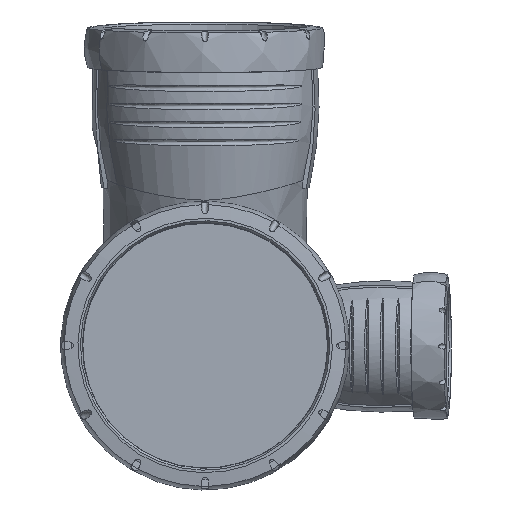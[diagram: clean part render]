
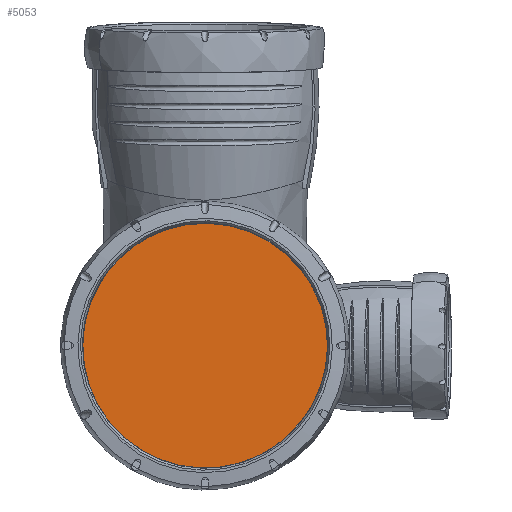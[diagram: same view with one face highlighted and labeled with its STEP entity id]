
A CAD part, top view. The second image highlights one B-rep face of the part: STEP entity #5053.
In plain terms, the highlighted planar face has unit normal (0, 0, 1).
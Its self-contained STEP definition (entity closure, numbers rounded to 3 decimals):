
#581=FACE_OUTER_BOUND('',#898,.T.);
#898=EDGE_LOOP('',(#4461,#4462));
#1534=CIRCLE('',#5404,55.5);
#1535=CIRCLE('',#5406,55.5);
#2220=VERTEX_POINT('',#18251);
#2221=VERTEX_POINT('',#18252);
#2965=EDGE_CURVE('',#2220,#2221,#1534,.T.);
#2968=EDGE_CURVE('',#2221,#2220,#1535,.T.);
#4461=ORIENTED_EDGE('',*,*,#2968,.F.);
#4462=ORIENTED_EDGE('',*,*,#2965,.F.);
#4510=PLANE('',#5407);
#5053=ADVANCED_FACE('',(#581),#4510,.T.);
#5404=AXIS2_PLACEMENT_3D('',#18253,#6183,#6184);
#5406=AXIS2_PLACEMENT_3D('',#18257,#6189,#6190);
#5407=AXIS2_PLACEMENT_3D('',#18258,#6191,#6192);
#6183=DIRECTION('center_axis',(0.,0.,
-1.));
#6184=DIRECTION('ref_axis',(-0.878,-0.479,0.));
#6189=DIRECTION('center_axis',(0.,0.,
-1.));
#6190=DIRECTION('ref_axis',(0.878,0.479,0.));
#6191=DIRECTION('center_axis',(0.,0.,
1.));
#6192=DIRECTION('ref_axis',(0.498,-0.867,0.));
#18251=CARTESIAN_POINT('',(-48.706,-26.608,283.2));
#18252=CARTESIAN_POINT('',(48.706,26.608,283.2));
#18253=CARTESIAN_POINT('Origin',(0.,-0.001,
283.2));
#18257=CARTESIAN_POINT('Origin',(0.,0.001,
283.2));
#18258=CARTESIAN_POINT('Origin',(-75.793,20.545,283.2));
